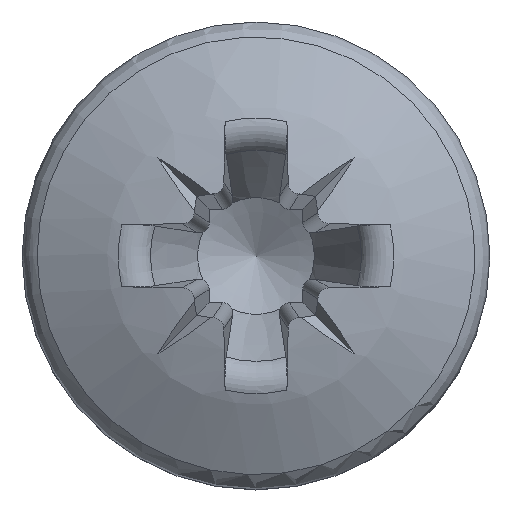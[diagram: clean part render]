
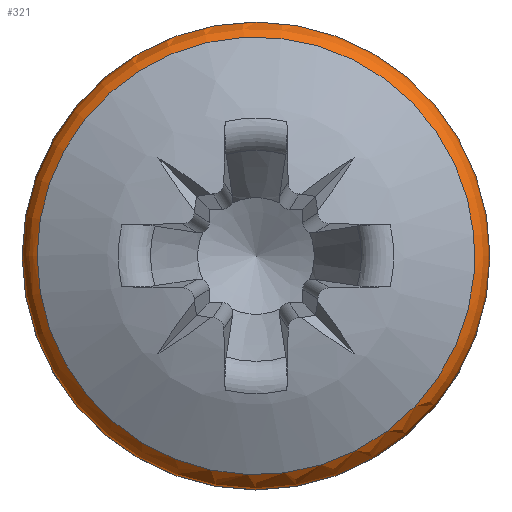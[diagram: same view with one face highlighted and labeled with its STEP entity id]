
A CAD part, top view. The second image highlights one B-rep face of the part: STEP entity #321.
In plain terms, the highlighted toroidal (fillet/blend) face has major radius 2.297 mm and minor radius 0.353 mm.
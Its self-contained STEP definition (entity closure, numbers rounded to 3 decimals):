
#243=TOROIDAL_SURFACE('',#1673,2.297,0.353);
#258=FACE_BOUND('',#518,.T.);
#259=FACE_BOUND('',#519,.T.);
#321=ADVANCED_FACE('',(#258,#259),#243,.T.);
#518=EDGE_LOOP('',(#899));
#519=EDGE_LOOP('',(#900));
#570=CIRCLE('',#1583,2.48);
#604=CIRCLE('',#1622,2.65);
#899=ORIENTED_EDGE('',*,*,#1309,.F.);
#900=ORIENTED_EDGE('',*,*,#1261,.F.);
#1111=VERTEX_POINT('',#3466);
#1157=VERTEX_POINT('',#3790);
#1261=EDGE_CURVE('',#1111,#1111,#570,.T.);
#1309=EDGE_CURVE('',#1157,#1157,#604,.T.);
#1583=AXIS2_PLACEMENT_3D('',#3465,#1692,#1693);
#1622=AXIS2_PLACEMENT_3D('',#3789,#1770,#1771);
#1673=AXIS2_PLACEMENT_3D('',#4254,#1900,#1901);
#1692=DIRECTION('',(0.,0.,1.));
#1693=DIRECTION('',(-1.,0.,0.));
#1770=DIRECTION('',(0.,0.,-1.));
#1771=DIRECTION('',(-1.,0.,0.));
#1900=DIRECTION('',(0.,0.,-1.));
#1901=DIRECTION('',(-1.,0.,0.));
#3465=CARTESIAN_POINT('',(0.,0.,1.308));
#3466=CARTESIAN_POINT('',(-2.48,0.,1.308));
#3789=CARTESIAN_POINT('',(0.,0.,1.006));
#3790=CARTESIAN_POINT('',(-2.65,0.,1.006));
#4254=CARTESIAN_POINT('',(0.,0.,1.006));
